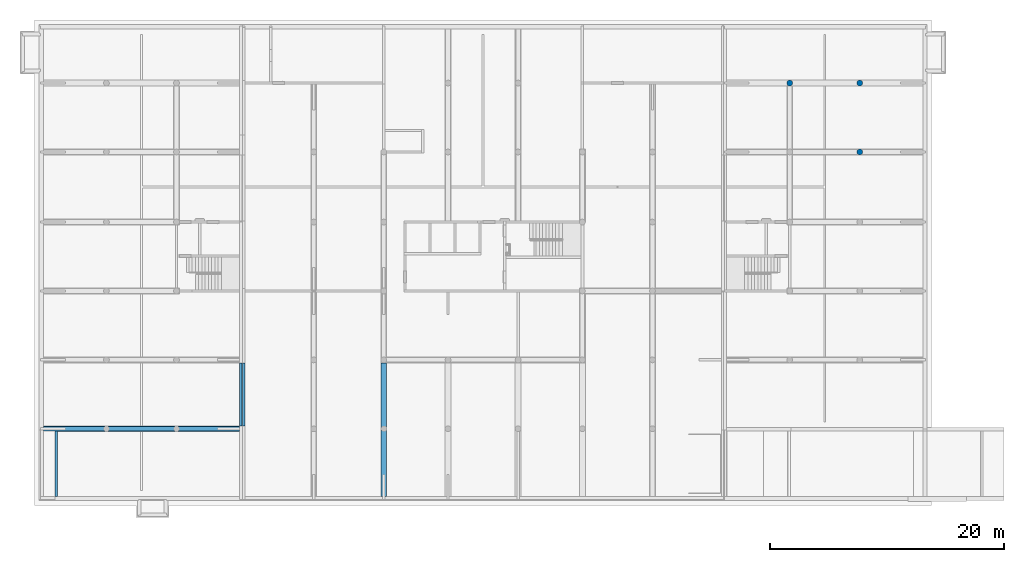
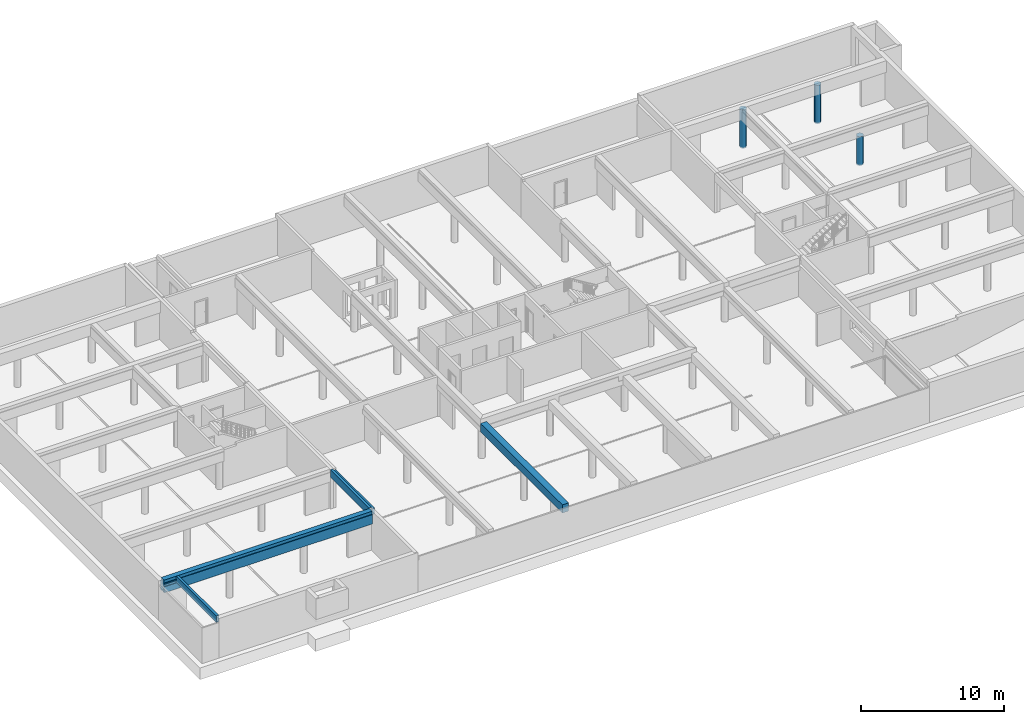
# One storey, part 6 of 25: 5 beams, 3 columns.
"""IFC2X3 building model written with IfcOpenShell, lengths in millimetres."""

from ifc_helpers import new_model, entity, si_unit, converted_unit, derived_unit, money_unit, direction, frame, origin_with_axes, place, context, subcontext, project, spatial, faceted_brep, material, material_list, type_object, element, save


model = new_model("IFC2X3")

# Units and contexts
model_context = context("Model", 3, precision=0.01, world=origin_with_axes(), true_north=direction((0.34421633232, 0.938890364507)))
body_context = subcontext(model_context, "Body", "Model", "MODEL_VIEW")
ifc_project = project(units=[si_unit("LENGTHUNIT", "METRE", prefix="MILLI"), si_unit("AREAUNIT", "SQUARE_METRE"), si_unit("VOLUMEUNIT", "CUBIC_METRE"), converted_unit("PLANEANGLEUNIT", "DEGREE", entity("IfcPlaneAngleMeasure", 0.0174532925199), si_unit("PLANEANGLEUNIT", "RADIAN"), dimensions=[0, 0, 0, 0, 0, 0, 0]), si_unit("SOLIDANGLEUNIT", "STERADIAN"), money_unit("USD"), converted_unit("TIMEUNIT", "Year", entity("IfcTimeMeasure", 31556926.0), si_unit("TIMEUNIT", "SECOND"), dimensions=[0, 0, 1, 0, 0, 0, 0]), si_unit("MASSUNIT", "GRAM", prefix="KILO"), si_unit("THERMODYNAMICTEMPERATUREUNIT", "DEGREE_CELSIUS"), si_unit("LUMINOUSINTENSITYUNIT", "LUMEN"), si_unit("ENERGYUNIT", "JOULE", prefix="MEGA"), derived_unit("THERMALCONDUCTANCEUNIT", [(si_unit("POWERUNIT", "WATT"), 1), (si_unit("LENGTHUNIT", "METRE"), -1), (si_unit("THERMODYNAMICTEMPERATUREUNIT", "KELVIN"), -1)]), derived_unit("SPECIFICHEATCAPACITYUNIT", [(si_unit("ENERGYUNIT", "JOULE"), 1), (si_unit("MASSUNIT", "GRAM", prefix="KILO"), -1), (si_unit("THERMODYNAMICTEMPERATUREUNIT", "KELVIN"), -1)]), derived_unit("MASSDENSITYUNIT", [(si_unit("MASSUNIT", "GRAM", prefix="KILO"), 1), (si_unit("VOLUMEUNIT", "CUBIC_METRE"), -1)])], contexts=[model_context])

# Site, building, storey
site_placement = place(None, origin_with_axes())
site = spatial("IfcSite", under=ifc_project, at=site_placement, Name="USTRONIE MORSKIE", CompositionType="ELEMENT")
building_placement = place(site_placement, origin_with_axes())
building = spatial("IfcBuilding", under=site, at=building_placement, Name="Budynek", CompositionType="ELEMENT")
storey_placement = place(building_placement, frame((0.0, 0.0, -3600.0), z_axis=(0.0, 0.0, 1.0), x_axis=(1.0, 0.0, 0.0)))
storey = spatial("IfcBuildingStorey", under=building, at=storey_placement, Name="GARAZ", CompositionType="ELEMENT", Elevation=-3600.0)

# Columns
ifc_material_1 = material(Name="Beton konstrukcyjny 01")
column_type = type_object("IfcColumnType", Name="Beton konstrukcyjny 01 D500", PredefinedType="NOTDEFINED")
column_1_placement = place(storey_placement, frame((420073.722271, 738801.199036, -100.0), z_axis=(0.0, 0.0, 1.0), x_axis=(1.0, 0.0, 0.0)))
element("IfcColumn", 1, at=column_1_placement, inside=storey, type_object=column_type, material=ifc_material_1, Name="S1", context=body_context, shape_type="Brep", body=[
    faceted_brep([(246.201938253, 43.4120444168, 2470.00030619), (246.201938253, 43.4120444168, 0.0), (234.923155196, 85.5050358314, 0.0), (234.923155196, 85.5050358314, 2470.00030619), (250.0, 0.0, 2470.00030619), (250.0, 0.0, 0.0), (246.201938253, -43.4120444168, 0.0), (234.923155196, -85.5050358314, 0.0), (216.506350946, -125.0, 0.0), (191.51111078, -160.696902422, 0.0), (160.696902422, -191.51111078, 0.0), (125.0, -216.506350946, 0.0), (85.5050358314, -234.923155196, 0.0), (43.4120444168, -246.201938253, 0.0), (0.0, -250.0, 0.0), (-43.4120444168, -246.201938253, 0.0), (-85.5050358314, -234.923155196, 0.0), (-125.0, -216.506350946, 0.0), (-160.696902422, -191.51111078, 0.0), (-191.51111078, -160.696902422, 0.0), (-216.506350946, -125.0, 0.0), (-234.923155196, -85.5050358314, 0.0), (-246.201938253, -43.4120444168, 0.0), (-250.0, 0.0, 0.0), (-246.201938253, 43.4120444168, 0.0), (-234.923155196, 85.5050358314, 0.0), (-216.506350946, 125.0, 0.0), (-191.51111078, 160.696902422, 0.0), (-160.696902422, 191.51111078, 0.0), (-125.0, 216.506350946, 0.0), (-85.5050358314, 234.923155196, 0.0), (-43.4120444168, 246.201938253, 0.0), (0.0, 250.0, 0.0), (43.4120444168, 246.201938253, 0.0), (85.5050358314, 234.923155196, 0.0), (125.0, 216.506350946, 0.0), (160.696902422, 191.51111078, 0.0), (191.51111078, 160.696902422, 0.0), (216.506350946, 125.0, 0.0), (216.506350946, 125.0, 2470.00030619), (191.51111078, 160.696902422, 2470.00030619), (160.696902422, 191.51111078, 2470.00030619), (125.0, 216.506350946, 2470.00030619), (85.5050358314, 234.923155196, 2470.00030619), (43.4120444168, 246.201938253, 2470.00030619), (0.0, 250.0, 2470.00030619), (-43.4120444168, 246.201938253, 2470.00030619), (-85.5050358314, 234.923155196, 2470.00030619), (-125.0, 216.506350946, 2470.00030619), (-160.696902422, 191.51111078, 2470.00030619), (-191.51111078, 160.696902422, 2470.00030619), (-216.506350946, 125.0, 2470.00030619), (-234.923155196, 85.5050358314, 2470.00030619), (-246.201938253, 43.4120444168, 2470.00030619), (-250.0, 0.0, 2470.00030619), (-246.201938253, -43.4120444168, 2470.00030619), (-234.923155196, -85.5050358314, 2470.00030619), (-216.506350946, -125.0, 2470.00030619), (-191.51111078, -160.696902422, 2470.00030619), (-160.696902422, -191.51111078, 2470.00030619), (-125.0, -216.506350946, 2470.00030619), (-85.5050358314, -234.923155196, 2470.00030619), (-43.4120444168, -246.201938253, 2470.00030619), (0.0, -250.0, 2470.00030619), (43.4120444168, -246.201938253, 2470.00030619), (85.5050358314, -234.923155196, 2470.00030619), (125.0, -216.506350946, 2470.00030619), (160.696902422, -191.51111078, 2470.00030619), (191.51111078, -160.696902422, 2470.00030619), (216.506350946, -125.0, 2470.00030619), (234.923155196, -85.5050358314, 2470.00030619), (246.201938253, -43.4120444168, 2470.00030619)], [[[0, 1, 2, 3]], [[4, 5, 1, 0]], [[2, 1, 5, 6, 7, 8, 9, 10, 11, 12, 13, 14, 15, 16, 17, 18, 19, 20, 21, 22, 23, 24, 25, 26, 27, 28, 29, 30, 31, 32, 33, 34, 35, 36, 37, 38]], [[3, 2, 38, 39]], [[4, 0, 3, 39, 40, 41, 42, 43, 44, 45, 46, 47, 48, 49, 50, 51, 52, 53, 54, 55, 56, 57, 58, 59, 60, 61, 62, 63, 64, 65, 66, 67, 68, 69, 70, 71]], [[71, 6, 5, 4]], [[70, 7, 6, 71]], [[69, 8, 7, 70]], [[68, 9, 8, 69]], [[67, 10, 9, 68]], [[66, 11, 10, 67]], [[65, 12, 11, 66]], [[64, 13, 12, 65]], [[63, 14, 13, 64]], [[62, 15, 14, 63]], [[61, 16, 15, 62]], [[60, 17, 16, 61]], [[59, 18, 17, 60]], [[58, 19, 18, 59]], [[57, 20, 19, 58]], [[56, 21, 20, 57]], [[55, 22, 21, 56]], [[54, 23, 22, 55]], [[53, 24, 23, 54]], [[52, 25, 24, 53]], [[51, 26, 25, 52]], [[50, 27, 26, 51]], [[49, 28, 27, 50]], [[48, 29, 28, 49]], [[47, 30, 29, 48]], [[46, 31, 30, 47]], [[45, 32, 31, 46]], [[44, 33, 32, 45]], [[43, 34, 33, 44]], [[42, 35, 34, 43]], [[41, 36, 35, 42]], [[40, 37, 36, 41]], [[39, 38, 37, 40]]]),
])
column_2_placement = place(storey_placement, frame((414067.920919, 744701.199036, -100.0), z_axis=(0.0, 0.0, 1.0), x_axis=(1.0, 0.0, 0.0)))
element("IfcColumn", 2, at=column_2_placement, inside=storey, type_object=column_type, material=ifc_material_1, Name="S1", context=body_context, shape_type="Brep", body=[
    faceted_brep([(-250.0, 0.0, 3280.0), (-250.0, 0.0, 0.0), (-246.201938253, -43.4120444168, 0.0), (-246.201938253, -43.4120444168, 3280.0), (-246.201938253, 43.4120444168, 3280.0), (-246.201938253, 43.4120444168, 0.0), (-234.923155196, 85.5050358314, 0.0), (-216.506350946, 125.0, 0.0), (-191.51111078, 160.696902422, 0.0), (-160.696902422, 191.51111078, 0.0), (-125.0, 216.506350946, 0.0), (-85.5050358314, 234.923155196, 0.0), (-43.4120444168, 246.201938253, 0.0), (0.0, 250.0, 0.0), (43.4120444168, 246.201938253, 0.0), (85.5050358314, 234.923155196, 0.0), (125.0, 216.506350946, 0.0), (160.696902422, 191.51111078, 0.0), (191.51111078, 160.696902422, 0.0), (216.506350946, 125.0, 0.0), (234.923155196, 85.5050358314, 0.0), (246.201938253, 43.4120444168, 0.0), (250.0, 0.0, 0.0), (246.201938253, -43.4120444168, 0.0), (234.923155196, -85.5050358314, 0.0), (216.506350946, -125.0, 0.0), (191.51111078, -160.696902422, 0.0), (160.696902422, -191.51111078, 0.0), (125.0, -216.506350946, 0.0), (85.5050358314, -234.923155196, 0.0), (43.4120444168, -246.201938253, 0.0), (0.0, -250.0, 0.0), (-43.4120444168, -246.201938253, 0.0), (-85.5050358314, -234.923155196, 0.0), (-125.0, -216.506350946, 0.0), (-160.696902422, -191.51111078, 0.0), (-191.51111078, -160.696902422, 0.0), (-216.506350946, -125.0, 0.0), (-234.923155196, -85.5050358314, 0.0), (-234.923155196, -85.5050358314, 3280.0), (-216.506350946, -125.0, 3280.0), (-191.51111078, -160.696902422, 3280.0), (-160.696902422, -191.51111078, 3280.0), (-125.0, -216.506350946, 3280.0), (-85.5050358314, -234.923155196, 3280.0), (-43.4120444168, -246.201938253, 3280.0), (0.0, -250.0, 3280.0), (43.4120444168, -246.201938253, 3280.0), (85.5050358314, -234.923155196, 3280.0), (125.0, -216.506350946, 3280.0), (160.696902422, -191.51111078, 3280.0), (191.51111078, -160.696902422, 3280.0), (216.506350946, -125.0, 3280.0), (234.923155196, -85.5050358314, 3280.0), (246.201938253, -43.4120444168, 3280.0), (250.0, 0.0, 3280.0), (246.201938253, 43.4120444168, 3280.0), (234.923155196, 85.5050358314, 3280.0), (216.506350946, 125.0, 3280.0), (191.51111078, 160.696902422, 3280.0), (160.696902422, 191.51111078, 3280.0), (125.0, 216.506350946, 3280.0), (85.5050358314, 234.923155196, 3280.0), (43.4120444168, 246.201938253, 3280.0), (0.0, 250.0, 3280.0), (-43.4120444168, 246.201938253, 3280.0), (-85.5050358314, 234.923155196, 3280.0), (-125.0, 216.506350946, 3280.0), (-160.696902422, 191.51111078, 3280.0), (-191.51111078, 160.696902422, 3280.0), (-216.506350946, 125.0, 3280.0), (-234.923155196, 85.5050358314, 3280.0)], [[[0, 1, 2, 3]], [[4, 5, 1, 0]], [[2, 1, 5, 6, 7, 8, 9, 10, 11, 12, 13, 14, 15, 16, 17, 18, 19, 20, 21, 22, 23, 24, 25, 26, 27, 28, 29, 30, 31, 32, 33, 34, 35, 36, 37, 38]], [[3, 2, 38, 39]], [[4, 0, 3, 39, 40, 41, 42, 43, 44, 45, 46, 47, 48, 49, 50, 51, 52, 53, 54, 55, 56, 57, 58, 59, 60, 61, 62, 63, 64, 65, 66, 67, 68, 69, 70, 71]], [[71, 6, 5, 4]], [[70, 7, 6, 71]], [[69, 8, 7, 70]], [[68, 9, 8, 69]], [[67, 10, 9, 68]], [[66, 11, 10, 67]], [[65, 12, 11, 66]], [[64, 13, 12, 65]], [[63, 14, 13, 64]], [[62, 15, 14, 63]], [[61, 16, 15, 62]], [[60, 17, 16, 61]], [[59, 18, 17, 60]], [[58, 19, 18, 59]], [[57, 20, 19, 58]], [[56, 21, 20, 57]], [[55, 22, 21, 56]], [[54, 23, 22, 55]], [[53, 24, 23, 54]], [[52, 25, 24, 53]], [[51, 26, 25, 52]], [[50, 27, 26, 51]], [[49, 28, 27, 50]], [[48, 29, 28, 49]], [[47, 30, 29, 48]], [[46, 31, 30, 47]], [[45, 32, 31, 46]], [[44, 33, 32, 45]], [[43, 34, 33, 44]], [[42, 35, 34, 43]], [[41, 36, 35, 42]], [[40, 37, 36, 41]], [[39, 38, 37, 40]]]),
])
column_3_placement = place(storey_placement, frame((420067.920919, 744701.199036, -100.0), z_axis=(0.0, 0.0, 1.0), x_axis=(1.0, 0.0, 0.0)))
element("IfcColumn", 3, at=column_3_placement, inside=storey, type_object=column_type, material=ifc_material_1, Name="S1", context=body_context, shape_type="Brep", body=[
    faceted_brep([(246.201938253, 43.4120444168, 3280.0), (246.201938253, 43.4120444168, 0.0), (234.923155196, 85.5050358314, 0.0), (234.923155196, 85.5050358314, 3280.0), (250.0, 0.0, 3280.0), (250.0, 0.0, 0.0), (246.201938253, -43.4120444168, 0.0), (234.923155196, -85.5050358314, 0.0), (216.506350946, -125.0, 0.0), (191.51111078, -160.696902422, 0.0), (160.696902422, -191.51111078, 0.0), (125.0, -216.506350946, 0.0), (85.5050358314, -234.923155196, 0.0), (43.4120444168, -246.201938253, 0.0), (0.0, -250.0, 0.0), (-43.4120444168, -246.201938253, 0.0), (-85.5050358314, -234.923155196, 0.0), (-125.0, -216.506350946, 0.0), (-160.696902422, -191.51111078, 0.0), (-191.51111078, -160.696902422, 0.0), (-216.506350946, -125.0, 0.0), (-234.923155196, -85.5050358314, 0.0), (-246.201938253, -43.4120444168, 0.0), (-250.0, 0.0, 0.0), (-246.201938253, 43.4120444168, 0.0), (-234.923155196, 85.5050358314, 0.0), (-216.506350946, 125.0, 0.0), (-191.51111078, 160.696902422, 0.0), (-160.696902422, 191.51111078, 0.0), (-125.0, 216.506350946, 0.0), (-85.5050358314, 234.923155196, 0.0), (-43.4120444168, 246.201938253, 0.0), (0.0, 250.0, 0.0), (43.4120444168, 246.201938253, 0.0), (85.5050358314, 234.923155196, 0.0), (125.0, 216.506350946, 0.0), (160.696902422, 191.51111078, 0.0), (191.51111078, 160.696902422, 0.0), (216.506350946, 125.0, 0.0), (216.506350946, 125.0, 3280.0), (191.51111078, 160.696902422, 3280.0), (160.696902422, 191.51111078, 3280.0), (125.0, 216.506350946, 3280.0), (85.5050358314, 234.923155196, 3280.0), (43.4120444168, 246.201938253, 3280.0), (0.0, 250.0, 3280.0), (-43.4120444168, 246.201938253, 3280.0), (-85.5050358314, 234.923155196, 3280.0), (-125.0, 216.506350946, 3280.0), (-160.696902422, 191.51111078, 3280.0), (-191.51111078, 160.696902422, 3280.0), (-216.506350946, 125.0, 3280.0), (-234.923155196, 85.5050358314, 3280.0), (-246.201938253, 43.4120444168, 3280.0), (-250.0, 0.0, 3280.0), (-246.201938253, -43.4120444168, 3280.0), (-234.923155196, -85.5050358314, 3280.0), (-216.506350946, -125.0, 3280.0), (-191.51111078, -160.696902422, 3280.0), (-160.696902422, -191.51111078, 3280.0), (-125.0, -216.506350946, 3280.0), (-85.5050358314, -234.923155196, 3280.0), (-43.4120444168, -246.201938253, 3280.0), (0.0, -250.0, 3280.0), (43.4120444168, -246.201938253, 3280.0), (85.5050358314, -234.923155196, 3280.0), (125.0, -216.506350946, 3280.0), (160.696902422, -191.51111078, 3280.0), (191.51111078, -160.696902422, 3280.0), (216.506350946, -125.0, 3280.0), (234.923155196, -85.5050358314, 3280.0), (246.201938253, -43.4120444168, 3280.0)], [[[0, 1, 2, 3]], [[4, 5, 1, 0]], [[2, 1, 5, 6, 7, 8, 9, 10, 11, 12, 13, 14, 15, 16, 17, 18, 19, 20, 21, 22, 23, 24, 25, 26, 27, 28, 29, 30, 31, 32, 33, 34, 35, 36, 37, 38]], [[3, 2, 38, 39]], [[4, 0, 3, 39, 40, 41, 42, 43, 44, 45, 46, 47, 48, 49, 50, 51, 52, 53, 54, 55, 56, 57, 58, 59, 60, 61, 62, 63, 64, 65, 66, 67, 68, 69, 70, 71]], [[71, 6, 5, 4]], [[70, 7, 6, 71]], [[69, 8, 7, 70]], [[68, 9, 8, 69]], [[67, 10, 9, 68]], [[66, 11, 10, 67]], [[65, 12, 11, 66]], [[64, 13, 12, 65]], [[63, 14, 13, 64]], [[62, 15, 14, 63]], [[61, 16, 15, 62]], [[60, 17, 16, 61]], [[59, 18, 17, 60]], [[58, 19, 18, 59]], [[57, 20, 19, 58]], [[56, 21, 20, 57]], [[55, 22, 21, 56]], [[54, 23, 22, 55]], [[53, 24, 23, 54]], [[52, 25, 24, 53]], [[51, 26, 25, 52]], [[50, 27, 26, 51]], [[49, 28, 27, 50]], [[48, 29, 28, 49]], [[47, 30, 29, 48]], [[46, 31, 30, 47]], [[45, 32, 31, 46]], [[44, 33, 32, 45]], [[43, 34, 33, 44]], [[42, 35, 34, 43]], [[41, 36, 35, 42]], [[40, 37, 36, 41]], [[39, 38, 37, 40]]]),
])

# Beams
beam_type_1 = type_object("IfcBeamType", Name="Beton konstrukcyjny 01 200 x 650", PredefinedType="NOTDEFINED")
beam_1_placement = place(storey_placement, frame((367067.920919, 720751.199036, 3370.00030619), z_axis=(0.0, 0.0, 1.0), x_axis=(-1.0, 0.0, 0.0)))
element("IfcBeam", 4, at=beam_1_placement, inside=storey, type_object=beam_type_1, material=ifc_material_1, Name="B1", context=body_context, shape_type="Brep", body=[
    faceted_brep([(-100.0, 0.0, -650.000306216), (-100.0, 5400.0, -650.000306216), (100.0, 5400.0, -650.000306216), (100.0, 0.0, -650.000306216), (-100.0, 0.0, 0.0), (-100.0, 5400.0, 0.0), (100.0, 5400.0, 0.0), (100.0, 0.0, 0.0)], [[[0, 1, 2, 3]], [[4, 5, 1, 0]], [[2, 1, 5, 6]], [[3, 2, 6, 7]], [[4, 0, 3, 7]], [[7, 6, 5, 4]]]),
])
beam_type_2 = type_object("IfcBeamType", Name="Beton konstrukcyjny 01 200 x 500", PredefinedType="NOTDEFINED")
beam_2_placement = place(storey_placement, frame((367317.920919, 720751.199036, 3220.00000068), z_axis=(0.0, 0.0, 1.0), x_axis=(-1.0, 0.0, 0.0)))
element("IfcBeam", 5, at=beam_2_placement, inside=storey, type_object=beam_type_2, material=ifc_material_1, Name="B1", context=body_context, shape_type="Brep", body=[
    faceted_brep([(-100.0, 0.0, -500.000000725), (-100.0, 5400.0, -500.000000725), (100.0, 5400.0, -500.000000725), (100.0, 0.0, -500.000000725), (-100.0, 0.0, 0.0), (-100.0, 5400.0, 0.0), (100.0, 5400.0, 0.0), (100.0, 0.0, 0.0)], [[[0, 1, 2, 3]], [[4, 5, 1, 0]], [[2, 1, 5, 6]], [[3, 2, 6, 7]], [[4, 0, 3, 7]], [[7, 6, 5, 4]]]),
])
ifc_material_2 = material(Name="Termoizolacja WEŁNA SKALNA")
ifc_material_list = material_list([ifc_material_2, ifc_material_1])
beam_type_3 = type_object("IfcBeamType", Name="GARAŻ P01 500 x 1050", PredefinedType="NOTDEFINED")
beam_3_placement = place(storey_placement, frame((366967.920919, 715101.199036, 3370.00030619), z_axis=(0.0, 0.0, 1.0), x_axis=(0.0, 1.0, 0.0)))
element("IfcBeam", 6, at=beam_3_placement, inside=storey, type_object=beam_type_3, material=ifc_material_list, Name="B1", context=body_context, shape_type="Brep", body=[
    faceted_brep([(-85.5050358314, 5165.0768448, -1050.0), (-43.4120444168, 5153.79806175, -1050.0), (0.0, 5150.0, -1050.0), (43.4120444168, 5153.79806175, -1050.0), (85.5050358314, 5165.0768448, -1050.0), (125.0, 5183.49364905, -1050.0), (160.696902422, 5208.48888922, -1050.0), (191.51111078, 5239.30309758, -1050.0), (216.506350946, 5275.0, -1050.0), (234.923155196, 5314.49496417, -1050.0), (246.201938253, 5356.58795558, -1050.0), (250.0, 5400.0, -1050.0), (249.999993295, 0.0, -1050.0), (100.0, 0.0, -1050.0), (100.0, 1900.0, -1050.0), (-100.0, 1900.0, -1050.0), (-100.0, 0.0, -1050.0), (-250.0, 0.0, -1050.0), (-250.0, 5400.0, -1050.0), (-246.201938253, 5356.58795558, -1050.0), (-234.923155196, 5314.49496417, -1050.0), (-216.506350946, 5275.0, -1050.0), (-191.51111078, 5239.30309758, -1050.0), (-160.696902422, 5208.48888922, -1050.0), (-125.0, 5183.49364905, -1050.0), (-85.5050358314, 5165.0768448, -1000.0), (-43.4120444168, 5153.79806175, -1000.0), (0.0, 5150.0, -1000.0), (43.4120444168, 5153.79806175, -1000.0), (85.5050358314, 5165.0768448, -1000.0), (125.0, 5183.49364905, -1000.0), (160.696902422, 5208.48888922, -1000.0), (191.51111078, 5239.30309758, -1000.0), (199.99999553, 5251.42648141, -1000.0), (216.506350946, 5275.0, -1000.0), (234.923155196, 5314.49496417, -1000.0), (246.201938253, 5356.58795558, -1000.0), (250.0, 5400.0, -1000.0), (250.0, 11400.0, -1050.0), (249.999993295, 16800.0, -1050.0), (249.999993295, 16800.0, -250.00000447), (249.999993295, 0.0, -250.00000447), (199.99999553, 0.0, -250.00000447), (199.99999553, 0.0, -1000.00000224), (100.0, 0.0, -1000.00030619), (100.0, 1900.0, -1000.00030619), (-100.0, 1900.0, -1000.00030619), (-100.0, 0.0, -1000.00030619), (-250.0, 0.0, -250.00000447), (-200.000002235, 0.0, -1000.00000224), (-200.000002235, 0.0, -250.00000447), (-250.0, 15600.0, -550.000334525), (-250.0, 16800.0, -550.000306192), (-250.0, 16800.0, -1050.0), (-250.0, 11400.0, -1050.0), (-250.0, 15600.0, -250.00000447), (-250.0, 5400.0, -1000.0), (-246.201938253, 5356.58795558, -1000.0), (-234.923155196, 5314.49496417, -1000.0), (-216.506350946, 5275.0, -1000.0), (-200.000002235, 5251.42649099, -1000.0), (-191.51111078, 5239.30309758, -1000.0), (-160.696902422, 5208.48888922, -1000.0), (-125.0, 5183.49364905, -1000.0), (199.99999553, 5548.57351859, -1000.0), (216.506350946, 5525.0, -1000.0), (234.923155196, 5485.50503583, -1000.0), (246.201938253, 5443.41204442, -1000.0), (246.201938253, 5443.41204442, -1050.0), (-246.201938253, 5443.41204442, -1050.0), (-246.201938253, 11356.5879556, -1050.0), (-234.923155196, 11314.4949642, -1050.0), (-216.506350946, 11275.0, -1050.0), (-191.51111078, 11239.3030976, -1050.0), (-160.696902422, 11208.4888892, -1050.0), (-125.0, 11183.4936491, -1050.0), (-85.5050358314, 11165.0768448, -1050.0), (-43.4120444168, 11153.7980617, -1050.0), (0.0, 11150.0, -1050.0), (43.4120444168, 11153.7980617, -1050.0), (85.5050358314, 11165.0768448, -1050.0), (125.0, 11183.4936491, -1050.0), (160.696902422, 11208.4888892, -1050.0), (191.51111078, 11239.3030976, -1050.0), (216.506350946, 11275.0, -1050.0), (234.923155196, 11314.4949642, -1050.0), (246.201938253, 11356.5879556, -1050.0), (234.923155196, 5485.50503583, -1050.0), (216.506350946, 5525.0, -1050.0), (191.51111078, 5560.69690242, -1050.0), (160.696902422, 5591.51111078, -1050.0), (125.0, 5616.50635095, -1050.0), (85.5050358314, 5634.9231552, -1050.0), (43.4120444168, 5646.20193825, -1050.0), (0.0, 5650.0, -1050.0), (-43.4120444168, 5646.20193825, -1050.0), (-85.5050358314, 5634.9231552, -1050.0), (-125.0, 5616.50635095, -1050.0), (-160.696902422, 5591.51111078, -1050.0), (-191.51111078, 5560.69690242, -1050.0), (-216.506350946, 5525.0, -1050.0), (-234.923155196, 5485.50503583, -1050.0), (-246.201938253, 11443.4120444, -1050.0), (-100.0, 16800.0, -1050.0), (-100.0, 14900.0, -1050.0), (100.0, 14900.0, -1050.0), (100.0, 16800.0, -1050.0), (246.201938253, 11443.4120444, -1050.0), (234.923155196, 11485.5050358, -1050.0), (216.506350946, 11525.0, -1050.0), (191.51111078, 11560.6969024, -1050.0), (160.696902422, 11591.5111108, -1050.0), (125.0, 11616.5063509, -1050.0), (85.5050358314, 11634.9231552, -1050.0), (43.4120444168, 11646.2019383, -1050.0), (0.0, 11650.0, -1050.0), (-43.4120444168, 11646.2019383, -1050.0), (-85.5050358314, 11634.9231552, -1050.0), (-125.0, 11616.5063509, -1050.0), (-160.696902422, 11591.5111108, -1050.0), (-191.51111078, 11560.6969024, -1050.0), (-216.506350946, 11525.0, -1050.0), (-234.923155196, 11485.5050358, -1050.0), (100.0, 16800.0, -1000.00030619), (199.99999553, 16800.0, -1000.00000224), (199.99999553, 16800.0, -250.00000447), (199.99999553, 11548.5735186, -1000.0), (199.99999553, 11251.4264814, -1000.0), (-200.000002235, 5548.57350901, -1000.0), (-200.000002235, 11251.426491, -1000.0), (-200.000002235, 11548.573509, -1000.0), (-200.000002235, 16800.0, -1000.00000224), (-200.000002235, 16800.0, -550.000306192), (-200.000002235, 15600.0, -550.000334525), (-200.000002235, 15600.0, -250.00000447), (-100.0, 16800.0, -1000.00030619), (-246.201938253, 5443.41204442, -1000.0), (-234.923155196, 5485.50503583, -1000.0), (-216.506350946, 5525.0, -1000.0), (191.51111078, 5560.69690242, -1000.0), (-250.0, 11400.0, -1000.0), (-246.201938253, 11356.5879556, -1000.0), (-234.923155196, 11314.4949642, -1000.0), (-216.506350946, 11275.0, -1000.0), (-191.51111078, 11239.3030976, -1000.0), (-160.696902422, 11208.4888892, -1000.0), (-125.0, 11183.4936491, -1000.0), (-85.5050358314, 11165.0768448, -1000.0), (-43.4120444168, 11153.7980617, -1000.0), (0.0, 11150.0, -1000.0), (43.4120444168, 11153.7980617, -1000.0), (85.5050358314, 11165.0768448, -1000.0), (125.0, 11183.4936491, -1000.0), (160.696902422, 11208.4888892, -1000.0), (191.51111078, 11239.3030976, -1000.0), (216.506350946, 11275.0, -1000.0), (234.923155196, 11314.4949642, -1000.0), (246.201938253, 11356.5879556, -1000.0), (250.0, 11400.0, -1000.0), (160.696902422, 5591.51111078, -1000.0), (125.0, 5616.50635095, -1000.0), (85.5050358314, 5634.9231552, -1000.0), (43.4120444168, 5646.20193825, -1000.0), (0.0, 5650.0, -1000.0), (-43.4120444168, 5646.20193825, -1000.0), (-85.5050358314, 5634.9231552, -1000.0), (-125.0, 5616.50635095, -1000.0), (-160.696902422, 5591.51111078, -1000.0), (-191.51111078, 5560.69690242, -1000.0), (-246.201938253, 11443.4120444, -1000.0), (-100.0, 14900.0, -1000.00030619), (100.0, 14900.0, -1000.00030619), (246.201938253, 11443.4120444, -1000.0), (234.923155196, 11485.5050358, -1000.0), (216.506350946, 11525.0, -1000.0), (191.51111078, 11560.6969024, -1000.0), (160.696902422, 11591.5111108, -1000.0), (125.0, 11616.5063509, -1000.0), (85.5050358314, 11634.9231552, -1000.0), (43.4120444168, 11646.2019383, -1000.0), (0.0, 11650.0, -1000.0), (-43.4120444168, 11646.2019383, -1000.0), (-85.5050358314, 11634.9231552, -1000.0), (-125.0, 11616.5063509, -1000.0), (-160.696902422, 11591.5111108, -1000.0), (-191.51111078, 11560.6969024, -1000.0), (-216.506350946, 11525.0, -1000.0), (-234.923155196, 11485.5050358, -1000.0)], [[[0, 1, 2, 3, 4, 5, 6, 7, 8, 9, 10, 11, 12, 13, 14, 15, 16, 17, 18, 19, 20, 21, 22, 23, 24]], [[25, 26, 1, 0]], [[26, 27, 2, 1]], [[27, 28, 3, 2]], [[28, 29, 4, 3]], [[29, 30, 5, 4]], [[30, 31, 6, 5]], [[31, 32, 7, 6]], [[32, 33, 34, 8, 7]], [[9, 8, 34, 35]], [[10, 9, 35, 36]], [[11, 10, 36, 37]], [[12, 11, 38, 39, 40, 41]], [[42, 43, 44, 13, 12, 41]], [[45, 14, 13, 44]], [[15, 14, 45, 46]], [[16, 15, 46, 47]], [[48, 17, 16, 47, 49, 50]], [[51, 52, 53, 54, 18, 17, 48, 55]], [[19, 18, 56, 57]], [[20, 19, 57, 58]], [[21, 20, 58, 59]], [[60, 61, 22, 21, 59]], [[61, 62, 23, 22]], [[62, 63, 24, 23]], [[63, 25, 0, 24]], [[29, 28, 27, 26, 25, 63, 62, 61, 60, 49, 47, 46, 45, 44, 43, 33, 32, 31, 30]], [[33, 64, 65, 66, 67, 37, 36, 35, 34]], [[68, 11, 37, 67]], [[69, 18, 54, 70, 71, 72, 73, 74, 75, 76, 77, 78, 79, 80, 81, 82, 83, 84, 85, 86, 38, 11, 68, 87, 88, 89, 90, 91, 92, 93, 94, 95, 96, 97, 98, 99, 100, 101]], [[102, 54, 53, 103, 104, 105, 106, 39, 38, 107, 108, 109, 110, 111, 112, 113, 114, 115, 116, 117, 118, 119, 120, 121, 122]], [[40, 39, 106, 123, 124, 125]], [[41, 40, 125, 42]], [[64, 33, 43, 42, 125, 124, 126, 127]], [[60, 128, 129, 130, 131, 132, 133, 134, 50, 49]], [[55, 48, 50, 134]], [[133, 132, 52, 51]], [[53, 52, 132, 131, 135, 103]], [[134, 133, 51, 55]], [[18, 69, 136, 56]], [[128, 60, 59, 58, 57, 56, 136, 137, 138]], [[89, 88, 65, 64, 139]], [[88, 87, 66, 65]], [[87, 68, 67, 66]], [[70, 54, 140, 141]], [[71, 70, 141, 142]], [[72, 71, 142, 143]], [[129, 144, 73, 72, 143]], [[144, 145, 74, 73]], [[145, 146, 75, 74]], [[146, 147, 76, 75]], [[147, 148, 77, 76]], [[148, 149, 78, 77]], [[149, 150, 79, 78]], [[150, 151, 80, 79]], [[151, 152, 81, 80]], [[152, 153, 82, 81]], [[153, 154, 83, 82]], [[154, 127, 155, 84, 83]], [[85, 84, 155, 156]], [[86, 85, 156, 157]], [[38, 86, 157, 158]], [[139, 159, 90, 89]], [[159, 160, 91, 90]], [[160, 161, 92, 91]], [[161, 162, 93, 92]], [[162, 163, 94, 93]], [[163, 164, 95, 94]], [[164, 165, 96, 95]], [[165, 166, 97, 96]], [[166, 167, 98, 97]], [[167, 168, 99, 98]], [[100, 99, 168, 128, 138]], [[101, 100, 138, 137]], [[69, 101, 137, 136]], [[54, 102, 169, 140]], [[104, 103, 135, 170]], [[105, 104, 170, 171]], [[106, 105, 171, 123]], [[107, 38, 158, 172]], [[108, 107, 172, 173]], [[109, 108, 173, 174]], [[110, 109, 174, 126, 175]], [[175, 176, 111, 110]], [[176, 177, 112, 111]], [[177, 178, 113, 112]], [[178, 179, 114, 113]], [[179, 180, 115, 114]], [[180, 181, 116, 115]], [[181, 182, 117, 116]], [[182, 183, 118, 117]], [[183, 184, 119, 118]], [[184, 185, 120, 119]], [[121, 120, 185, 130, 186]], [[122, 121, 186, 187]], [[102, 122, 187, 169]], [[175, 126, 124, 123, 171, 170, 135, 131, 130, 185, 184, 183, 182, 181, 180, 179, 178, 177, 176]], [[127, 126, 174, 173, 172, 158, 157, 156, 155]], [[139, 64, 127, 154, 153, 152, 151, 150, 149, 148, 147, 146, 145, 144, 129, 128, 168, 167, 166, 165, 164, 163, 162, 161, 160, 159]], [[130, 129, 143, 142, 141, 140, 169, 187, 186]]]),
    faceted_brep([(-250.0, 15800.0, -350.000306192), (-200.000002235, 15800.0, -350.000306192), (-200.000002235, 15800.0, -250.00000447), (-250.0, 15800.0, -250.00000447), (-200.000002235, 16800.0, -350.000306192), (-250.0, 16800.0, -350.000306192), (-200.000002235, 16800.0, -250.00000447), (-250.0, 16800.0, -250.00000447)], [[[0, 1, 2, 3]], [[4, 1, 0, 5]], [[1, 4, 6, 2]], [[6, 7, 3, 2]], [[5, 0, 3, 7]], [[4, 5, 7, 6]]]),
    faceted_brep([(200.0, 0.0, -1000.0), (200.0, 16800.0, -1000.0), (199.99999553, 16800.0, -250.00000447), (199.99999553, 0.0, -250.00000447), (-200.0, 0.0, -1000.0), (-200.0, 16800.0, -1000.0), (-200.000002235, 16800.0, -250.00000447), (-200.0, 16800.0, 0.0), (200.0, 16800.0, 0.0), (200.0, 0.0, 0.0), (-200.0, 0.0, 0.0), (-200.000002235, 0.0, -250.00000447)], [[[0, 1, 2, 3]], [[4, 5, 1, 0]], [[2, 1, 5, 6, 7, 8]], [[3, 2, 8, 9]], [[4, 0, 3, 9, 10, 11]], [[11, 6, 5, 4]], [[10, 7, 6, 11]], [[9, 8, 7, 10]]]),
])
beam_type_4 = type_object("IfcBeamType", Name="Beton konstrukcyjny 01 500 x 700", PredefinedType="NOTDEFINED")
beam_4_placement = place(storey_placement, frame((379317.920919, 709301.218821, 3070.00030619), z_axis=(0.0, 0.0, 1.0), x_axis=(1.0, 0.0, 0.0)))
element("IfcBeam", 7, at=beam_4_placement, inside=storey, type_object=beam_type_4, material=ifc_material_1, Name="B1", context=body_context, shape_type="Brep", body=[
    faceted_brep([(250.0, 0.0, -700.0), (-250.0, 0.0, -700.0), (-250.0, 11449.9802154, -700.0), (250.0, 11449.9802154, -700.0), (250.0, 0.0, 0.0), (-250.0, 0.0, 0.0), (-250.0, 11449.9802154, 0.0), (250.0, 11449.9802154, 0.0)], [[[0, 1, 2, 3]], [[4, 5, 1, 0]], [[1, 5, 6, 2]], [[7, 3, 2, 6]], [[4, 0, 3, 7]], [[5, 4, 7, 6]]]),
])
beam_type_5 = type_object("IfcBeamType", Name="Beton konstrukcyjny 01 200 x 550", PredefinedType="NOTDEFINED")
beam_5_placement = place(storey_placement, frame((351267.920919, 715001.199036, 3370.00030619), z_axis=(0.0, 0.0, 1.0), x_axis=(-1.0, 0.0, 0.0)))
element("IfcBeam", 8, at=beam_5_placement, inside=storey, type_object=beam_type_5, material=ifc_material_1, Name="B1", context=body_context, shape_type="Brep", body=[
    faceted_brep([(-100.0, 5700.0, -550.000334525), (-100.0, 100.000000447, -550.000334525), (-100.0, 100.000002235, -250.00000447), (-100.0, 100.0, 0.0), (-100.0, 5700.0, 0.0), (100.0, 5700.0, -550.000334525), (100.0, 100.000000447, -550.000334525), (100.0, 100.000002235, -250.00000447), (100.0, 100.0, 0.0), (100.0, 5700.0, 0.0)], [[[0, 1, 2, 3, 4]], [[5, 6, 1, 0]], [[7, 2, 1, 6]], [[7, 8, 3, 2]], [[4, 3, 8, 9]], [[9, 5, 0, 4]], [[8, 7, 6, 5, 9]]]),
])

save(model, "model.ifc")
